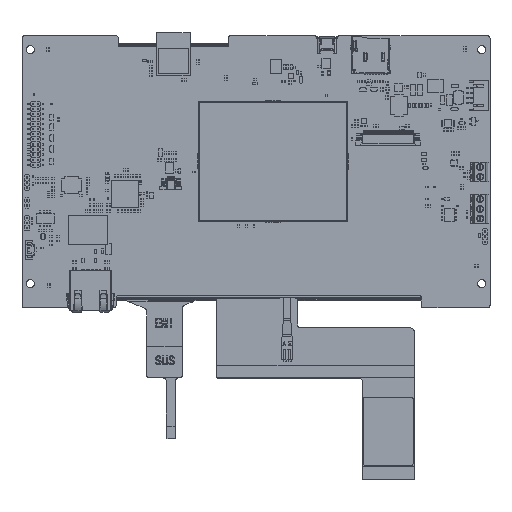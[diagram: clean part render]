
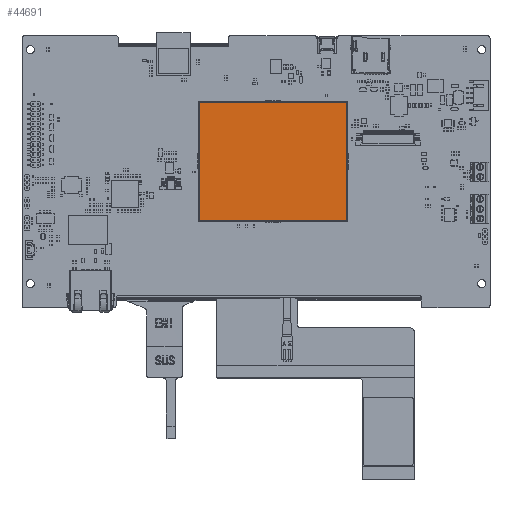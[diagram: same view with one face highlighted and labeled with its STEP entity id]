
A CAD part, top view. The second image highlights one B-rep face of the part: STEP entity #44691.
In plain terms, the highlighted planar face has unit normal (0, 0, 1).
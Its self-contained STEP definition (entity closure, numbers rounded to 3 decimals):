
#43922=DIRECTION('',(1.,0.,0.));
#43923=VECTOR('',#43922,57.95);
#43924=CARTESIAN_POINT('',(-28.975,23.275,0.2));
#43925=LINE('',#43924,#43923);
#44099=DIRECTION('',(0.,1.,0.));
#44100=VECTOR('',#44099,46.55);
#44101=CARTESIAN_POINT('',(-28.975,-23.275,0.2));
#44102=LINE('',#44101,#44100);
#44117=DIRECTION('',(0.,-1.,0.));
#44118=VECTOR('',#44117,46.55);
#44119=CARTESIAN_POINT('',(28.975,23.275,0.2));
#44120=LINE('',#44119,#44118);
#44168=DIRECTION('',(-1.,0.,0.));
#44169=VECTOR('',#44168,57.95);
#44170=CARTESIAN_POINT('',(28.975,-23.275,0.2));
#44171=LINE('',#44170,#44169);
#44233=CARTESIAN_POINT('',(-28.975,-23.275,0.2));
#44234=VERTEX_POINT('',#44233);
#44235=CARTESIAN_POINT('',(28.975,-23.275,0.2));
#44236=VERTEX_POINT('',#44235);
#44245=CARTESIAN_POINT('',(28.975,23.275,0.2));
#44246=VERTEX_POINT('',#44245);
#44247=CARTESIAN_POINT('',(-28.975,23.275,0.2));
#44248=VERTEX_POINT('',#44247);
#44678=CARTESIAN_POINT('',(0.,0.,0.2));
#44679=DIRECTION('',(0.,0.,1.));
#44680=DIRECTION('',(1.,0.,0.));
#44681=AXIS2_PLACEMENT_3D('',#44678,#44679,#44680);
#44682=PLANE('',#44681);
#44684=ORIENTED_EDGE('',*,*,#44683,.T.);
#44686=ORIENTED_EDGE('',*,*,#44685,.T.);
#44687=ORIENTED_EDGE('',*,*,#44670,.T.);
#44688=ORIENTED_EDGE('',*,*,#44350,.T.);
#44689=EDGE_LOOP('',(#44684,#44686,#44687,#44688));
#44690=FACE_OUTER_BOUND('',#44689,.F.);
#44691=ADVANCED_FACE('',(#44690),#44682,.T.);
#44350=EDGE_CURVE('',#44248,#44246,#43925,.T.);
#44670=EDGE_CURVE('',#44234,#44248,#44102,.T.);
#44683=EDGE_CURVE('',#44246,#44236,#44120,.T.);
#44685=EDGE_CURVE('',#44236,#44234,#44171,.T.);
